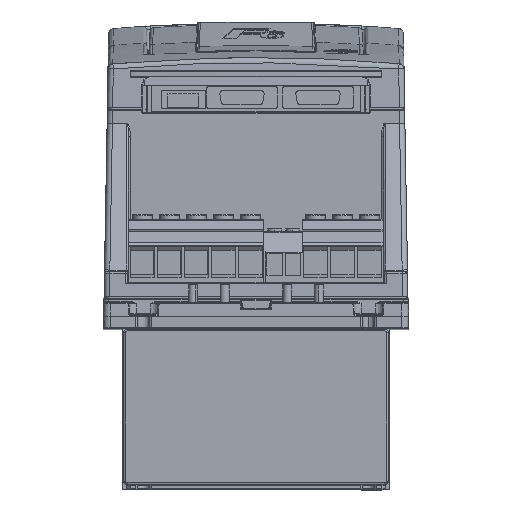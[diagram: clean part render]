
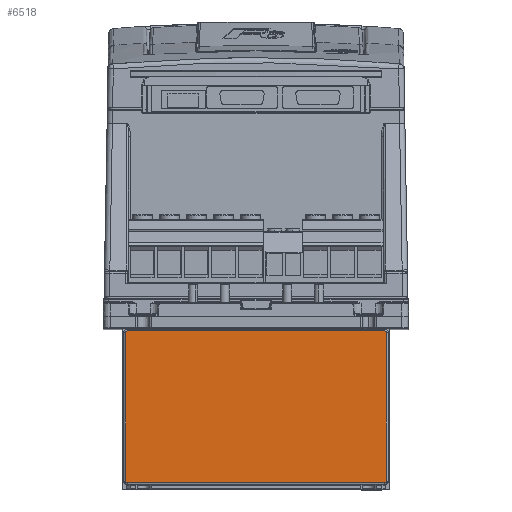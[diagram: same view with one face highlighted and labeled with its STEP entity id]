
A CAD part, top view. The second image highlights one B-rep face of the part: STEP entity #6518.
In plain terms, the highlighted planar face has unit normal (0, 0, 1).
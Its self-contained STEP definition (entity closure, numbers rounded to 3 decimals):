
#317 = EDGE_LOOP ( 'NONE', ( #31502, #12048, #39774, #36266, #20748, #41542, #50193, #26385 ) ) ;
#1056 = DIRECTION ( 'NONE',  ( 0., 0., 1. ) ) ;
#3294 = AXIS2_PLACEMENT_3D ( 'NONE', #28343, #48613, #22781 ) ;
#5608 = AXIS2_PLACEMENT_3D ( 'NONE', #56666, #1056, #10561 ) ;
#5798 = VERTEX_POINT ( 'NONE', #11225 ) ;
#5858 = CARTESIAN_POINT ( 'NONE',  ( 72.5, -87.15, 60. ) ) ;
#6395 = EDGE_CURVE ( 'NONE', #43037, #5798, #26428, .T. ) ;
#6518 = ADVANCED_FACE ( 'NONE', ( #28032 ), #47968, .T. ) ;
#8000 = LINE ( 'NONE', #58955, #14965 ) ;
#9253 = CARTESIAN_POINT ( 'NONE',  ( 71.5, -4.65, 60. ) ) ;
#9732 = VECTOR ( 'NONE', #44558, 1000. ) ;
#10365 = EDGE_CURVE ( 'NONE', #57449, #60447, #20004, .T. ) ;
#10561 = DIRECTION ( 'NONE',  ( 1., 0., 0. ) ) ;
#11225 = CARTESIAN_POINT ( 'NONE',  ( -71.5, -3.65, 60. ) ) ;
#11326 = DIRECTION ( 'NONE',  ( 1., 0., 0. ) ) ;
#12048 = ORIENTED_EDGE ( 'NONE', *, *, #31228, .T. ) ;
#12649 = EDGE_CURVE ( 'NONE', #54559, #36195, #27734, .T. ) ;
#13858 = DIRECTION ( 'NONE',  ( 0., 0., 1. ) ) ;
#14965 = VECTOR ( 'NONE', #32830, 1000. ) ;
#18810 = DIRECTION ( 'NONE',  ( 0., 0., 1. ) ) ;
#18974 = CARTESIAN_POINT ( 'NONE',  ( 71.5, -3.65, 60. ) ) ;
#20004 = LINE ( 'NONE', #29172, #9732 ) ;
#20108 = AXIS2_PLACEMENT_3D ( 'NONE', #28636, #18810, #28950 ) ;
#20484 = CARTESIAN_POINT ( 'NONE',  ( -72.5, -4.65, 60. ) ) ;
#20748 = ORIENTED_EDGE ( 'NONE', *, *, #10365, .T. ) ;
#21061 = CARTESIAN_POINT ( 'NONE',  ( 71.5, -87.15, 60. ) ) ;
#21082 = AXIS2_PLACEMENT_3D ( 'NONE', #9253, #13858, #48850 ) ;
#22154 = DIRECTION ( 'NONE',  ( -1., 0., 0. ) ) ;
#22742 = CARTESIAN_POINT ( 'NONE',  ( 0., -88.15, 60. ) ) ;
#22781 = DIRECTION ( 'NONE',  ( 1., 0., 0. ) ) ;
#23125 = VECTOR ( 'NONE', #11326, 1000. ) ;
#25137 = CARTESIAN_POINT ( 'NONE',  ( 71.5, -88.15, 60. ) ) ;
#26091 = CARTESIAN_POINT ( 'NONE',  ( 0., -3.65, 60. ) ) ;
#26385 = ORIENTED_EDGE ( 'NONE', *, *, #12649, .T. ) ;
#26428 = LINE ( 'NONE', #26091, #53362 ) ;
#27510 = CIRCLE ( 'NONE', #21082, 1. ) ;
#27734 = CIRCLE ( 'NONE', #28772, 1. ) ;
#28032 = FACE_OUTER_BOUND ( 'NONE', #317, .T. ) ;
#28343 = CARTESIAN_POINT ( 'NONE',  ( 0., -45.9, 60. ) ) ;
#28636 = CARTESIAN_POINT ( 'NONE',  ( -71.5, -4.65, 60. ) ) ;
#28772 = AXIS2_PLACEMENT_3D ( 'NONE', #21061, #55710, #41018 ) ;
#28950 = DIRECTION ( 'NONE',  ( 1., 0., 0. ) ) ;
#28967 = VERTEX_POINT ( 'NONE', #41001 ) ;
#29172 = CARTESIAN_POINT ( 'NONE',  ( -72.5, -45.9, 60. ) ) ;
#31228 = EDGE_CURVE ( 'NONE', #28967, #43037, #27510, .T. ) ;
#31502 = ORIENTED_EDGE ( 'NONE', *, *, #32824, .T. ) ;
#32224 = LINE ( 'NONE', #22742, #23125 ) ;
#32824 = EDGE_CURVE ( 'NONE', #36195, #28967, #8000, .T. ) ;
#32830 = DIRECTION ( 'NONE',  ( 0., 1., 0. ) ) ;
#33802 = CIRCLE ( 'NONE', #5608, 1. ) ;
#36167 = CARTESIAN_POINT ( 'NONE',  ( -72.5, -87.15, 60. ) ) ;
#36195 = VERTEX_POINT ( 'NONE', #5858 ) ;
#36266 = ORIENTED_EDGE ( 'NONE', *, *, #46779, .T. ) ;
#39774 = ORIENTED_EDGE ( 'NONE', *, *, #6395, .T. ) ;
#41001 = CARTESIAN_POINT ( 'NONE',  ( 72.5, -4.65, 60. ) ) ;
#41018 = DIRECTION ( 'NONE',  ( 1., 0., 0. ) ) ;
#41542 = ORIENTED_EDGE ( 'NONE', *, *, #50714, .T. ) ;
#43037 = VERTEX_POINT ( 'NONE', #18974 ) ;
#44558 = DIRECTION ( 'NONE',  ( 0., -1., 0. ) ) ;
#45464 = EDGE_CURVE ( 'NONE', #60183, #54559, #32224, .T. ) ;
#46779 = EDGE_CURVE ( 'NONE', #5798, #57449, #51446, .T. ) ;
#47968 = PLANE ( 'NONE',  #3294 ) ;
#48613 = DIRECTION ( 'NONE',  ( 0., 0., 1. ) ) ;
#48850 = DIRECTION ( 'NONE',  ( 1., 0., 0. ) ) ;
#50193 = ORIENTED_EDGE ( 'NONE', *, *, #45464, .T. ) ;
#50714 = EDGE_CURVE ( 'NONE', #60447, #60183, #33802, .T. ) ;
#51446 = CIRCLE ( 'NONE', #20108, 1. ) ;
#53362 = VECTOR ( 'NONE', #22154, 1000. ) ;
#54559 = VERTEX_POINT ( 'NONE', #25137 ) ;
#55710 = DIRECTION ( 'NONE',  ( 0., 0., 1. ) ) ;
#56666 = CARTESIAN_POINT ( 'NONE',  ( -71.5, -87.15, 60. ) ) ;
#57449 = VERTEX_POINT ( 'NONE', #20484 ) ;
#58955 = CARTESIAN_POINT ( 'NONE',  ( 72.5, -45.9, 60. ) ) ;
#60183 = VERTEX_POINT ( 'NONE', #62987 ) ;
#60447 = VERTEX_POINT ( 'NONE', #36167 ) ;
#62987 = CARTESIAN_POINT ( 'NONE',  ( -71.5, -88.15, 60. ) ) ;
